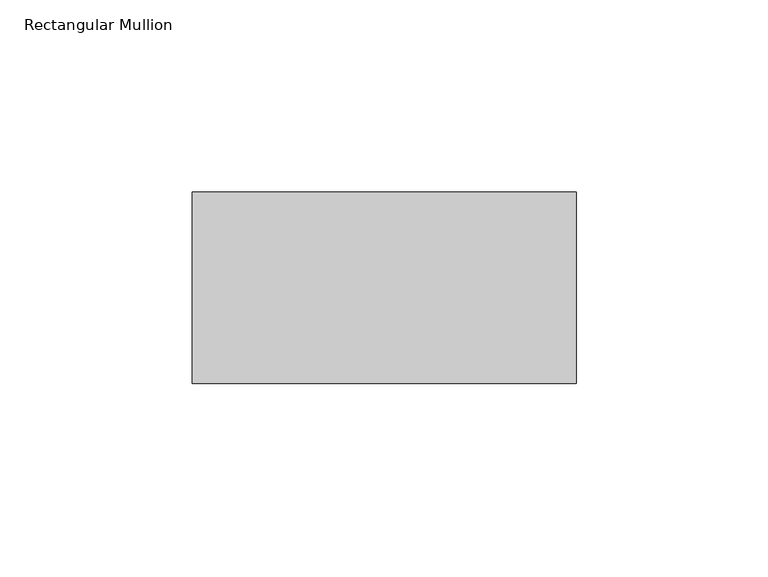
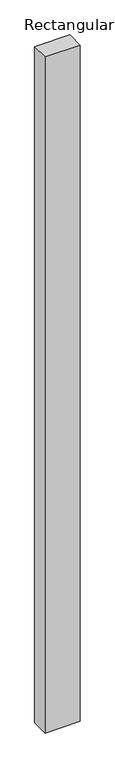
"""IFC4 building model written with IfcOpenShell, lengths in millimetres: member geometry, Rectangular Mullion : Mullion_Curtain Wall_Generic Showcase_50x100mm."""

from ifc_helpers import new_model, si_unit, frame, origin, place, context, project, spatial, polyline, outline, extrude, source, transform, mapped, element, save


def rectangular_mullion_8513d4ac(model_context):
    return source(origin(), model_context, "Body", "SweptSolid", [
        extrude(outline(polyline([(0.0, 50.0), (0.0, 0.0), (-100.0, 0.0), (-100.0, 50.0), (0.0, 50.0)])), frame((0.0, 0.0, -2025.0), z_axis=(0.0, 0.0, 1.0), x_axis=(1.0, 0.0, 0.0)), (0.0, 0.0, 1.0), 2025.0),
    ])


if __name__ == "__main__":
    model = new_model("IFC4")
    model_context = context("Model", 3, world=origin())
    ifc_project = project(units=[si_unit("LENGTHUNIT", "METRE", prefix="MILLI")], contexts=[model_context])
    site = spatial("IfcSite", under=ifc_project)
    building = spatial("IfcBuilding", under=site)
    placement = place(None, origin())
    rectangular_mullion_shape = rectangular_mullion_8513d4ac(model_context)
    element("IfcMember", 1, ObjectType="Rectangular Mullion : Mullion_Curtain Wall_Generic Showcase_50x100mm", at=placement, inside=building, context=model_context, shape_type="MappedRepresentation", body=[
        mapped(rectangular_mullion_shape, transform((0.0, 0.0, 0.0), x_axis=(1.0, 0.0, 0.0), y_axis=(0.0, 1.0, 0.0), z_axis=(0.0, 0.0, 1.0))),
    ])
    save(model, "model.ifc")
